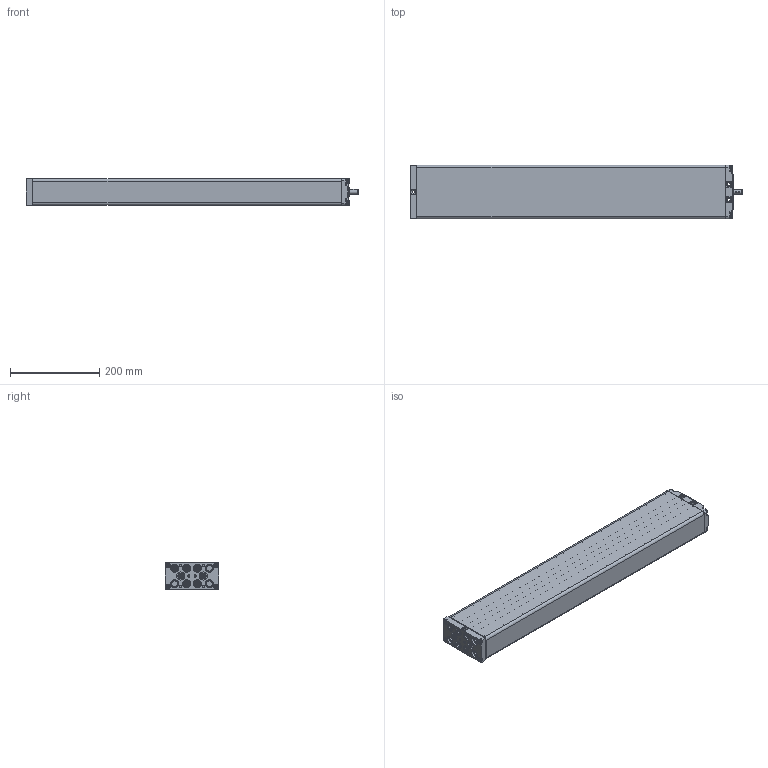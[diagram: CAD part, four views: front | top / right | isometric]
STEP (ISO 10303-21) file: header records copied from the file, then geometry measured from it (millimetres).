
FILE_DESCRIPTION(/* description */ ('Unknown'),/* implementation_level */ '2;1');
FILE_NAME(/* name */ '102.20265 Pumpe PB 7850 W',/* time_stamp */ '2016-11-25T10:57:12+01:00',/* author */ ('Unknown'),/* organization */ ('Unknown'),/* preprocessor_version */ 'ST-DEVELOPER v16.7',/* originating_system */ 'DEX',/* authorisation */ $);
FILE_SCHEMA (('AUTOMOTIVE_DESIGN {1 0 10303 214 3 1 1}'));
Products named in the file (16): 102.20265; 115.10035; 125.00061; 115.00008; 142.00021; 125.00021; 142.00013; 125.00145; 115.00140; 126.00006; 122.00040; 119.00045; 126.00036; 142.00057; 142.00083; 142.00017
Assembly tree (32 placements, depth 3):
  102.20265
    115.10035  x7
      125.00061
      115.00008
      142.00021
      125.00021
    142.00013  x8
    125.00145
    115.00140
      126.00006
      122.00040
    119.00045
    126.00036
    142.00057
    142.00083  x4
    142.00017  x2
Bounding box: 744.5 x 120 x 60.3 mm (x, y, z)
Volume: 905735.9 mm3; surface area: 621986.9 mm2
Topology: 41 solids, 41 shells, 2099 faces, 4781 edges, 2789 vertices
Faces by surface type: plane 739, cylinder 476, bspline 377, cone 342, torus 108, sphere 57
Full cylindrical faces by diameter (mm): 3.5 x7, 4.1 x7, 4.134 x4, 4.2 x7, 4.917 x2, 5 x12, 5.8 x4, 6 x2, 6.8 x1, 6.917 x14, 8 x15, 8.5 x4, 9.8 x8, 10 x5, 10.4 x1, 10.5 x4, 12.5 x7, 13 x24, 14 x1, 14.4 x7, 17.9 x14, 18 x11, 19 x1
Entity records: 60391 total; most frequent: CARTESIAN_POINT 28876, ORIENTED_EDGE 5076, DIRECTION 4433, EDGE_CURVE 2538, AXIS2_PLACEMENT_3D 1720, VERTEX_POINT 1603, FACE_BOUND 1413, EDGE_LOOP 1412
